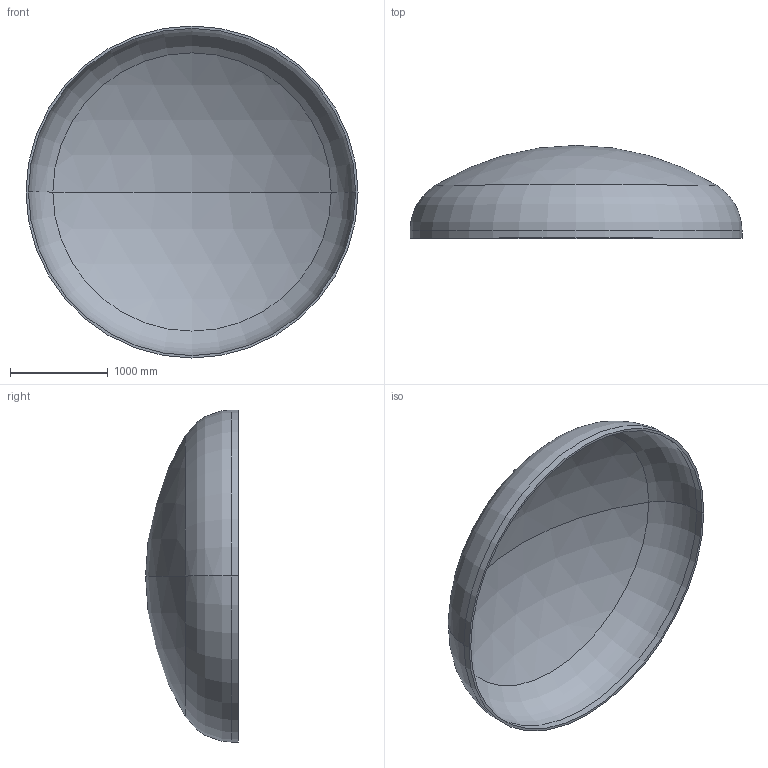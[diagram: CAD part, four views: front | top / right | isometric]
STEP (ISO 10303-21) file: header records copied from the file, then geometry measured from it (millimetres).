
FILE_DESCRIPTION (( 'STEP AP203' ), '1' );
FILE_NAME ('DIN 28013 Korbbogenform_-_Boden DIN 28013 - 3400 x 75 - I - s=25.step', '2016-07-01T19:19:26', ( '' ), ( '' ), 'SwSTEP 2.0', 'SolidWorks 2013', '' );
FILE_SCHEMA (( 'CONFIG_CONTROL_DESIGN' ));
Length unit declared in the file: millimetre
Products named in the file (1): DIN 28013 Korbbogenform_-_Boden DIN 28013 - 3400 x 75 - I - s=25
Bounding box: 3400 x 950.37 x 3400 mm (x, y, z)
Volume: 331368762.6 mm3; surface area: 26775871.7 mm2
Topology: 1 solids, 1 shells, 13 faces, 24 edges, 14 vertices
Faces by surface type: torus 4, cylinder 4, sphere 4, plane 1
Entity records: 407 total; most frequent: DIRECTION 72, CARTESIAN_POINT 52, ORIENTED_EDGE 48, AXIS2_PLACEMENT_3D 34, EDGE_CURVE 24, CIRCLE 20, VERTEX_POINT 14, EDGE_LOOP 14
